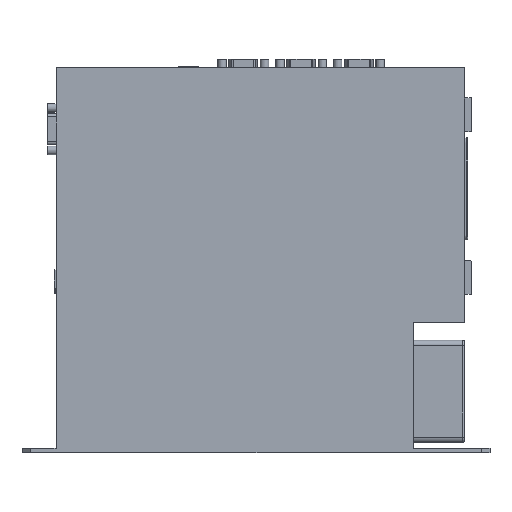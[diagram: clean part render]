
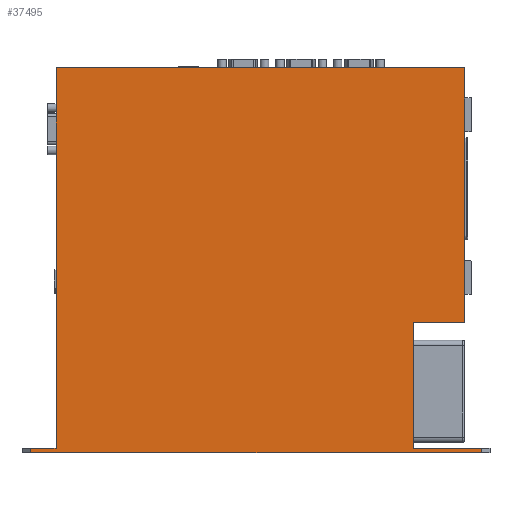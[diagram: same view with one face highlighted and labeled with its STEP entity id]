
A CAD part, left-side view. The second image highlights one B-rep face of the part: STEP entity #37495.
In plain terms, the highlighted planar face has unit normal (-1, 0, 0).
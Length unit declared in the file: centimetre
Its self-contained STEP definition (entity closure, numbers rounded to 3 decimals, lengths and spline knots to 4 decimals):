
#3326=VERTEX_POINT('',#45869);
#3327=VERTEX_POINT('',#45871);
#3800=VERTEX_POINT('',#47402);
#6267=VERTEX_POINT('',#61863);
#6778=VERTEX_POINT('',#63535);
#6779=VERTEX_POINT('',#63537);
#6780=VERTEX_POINT('',#63544);
#6781=VERTEX_POINT('',#63546);
#6782=VERTEX_POINT('',#63548);
#6783=VERTEX_POINT('',#63550);
#7057=VECTOR('',#39834,1.);
#7338=VECTOR('',#40192,1.);
#9754=VECTOR('',#43516,1.);
#10185=VECTOR('',#45123,1.);
#10188=VECTOR('',#45127,1.);
#10189=VECTOR('',#45129,1.);
#10190=VECTOR('',#45130,1.);
#10191=VECTOR('',#45131,1.);
#10192=VECTOR('',#45132,1.);
#10193=VECTOR('',#45133,1.);
#10480=LINE('',#45870,#7057);
#10761=LINE('',#47405,#7338);
#13177=LINE('',#61866,#9754);
#13608=LINE('',#63536,#10185);
#13611=LINE('',#63541,#10188);
#13612=LINE('',#63543,#10189);
#13613=LINE('',#63545,#10190);
#13614=LINE('',#63547,#10191);
#13615=LINE('',#63549,#10192);
#13616=LINE('',#63551,#10193);
#13961=EDGE_CURVE('',#3327,#3326,#10480,.T.);
#14474=EDGE_CURVE('',#3800,#3327,#10761,.T.);
#18335=EDGE_CURVE('',#6267,#3800,#13177,.T.);
#19059=EDGE_CURVE('',#6779,#6778,#13608,.T.);
#19062=EDGE_CURVE('',#6778,#6267,#13611,.T.);
#19063=EDGE_CURVE('',#6780,#6779,#13612,.T.);
#19064=EDGE_CURVE('',#3326,#6781,#13613,.T.);
#19065=EDGE_CURVE('',#6782,#6781,#13614,.T.);
#19066=EDGE_CURVE('',#6783,#6782,#13615,.T.);
#19067=EDGE_CURVE('',#6783,#6780,#13616,.T.);
#29935=ORIENTED_EDGE('',*,*,#19063,.T.);
#29936=ORIENTED_EDGE('',*,*,#19059,.T.);
#29937=ORIENTED_EDGE('',*,*,#19062,.T.);
#29938=ORIENTED_EDGE('',*,*,#18335,.T.);
#29939=ORIENTED_EDGE('',*,*,#14474,.T.);
#29940=ORIENTED_EDGE('',*,*,#13961,.T.);
#29941=ORIENTED_EDGE('',*,*,#19064,.T.);
#29942=ORIENTED_EDGE('',*,*,#19065,.F.);
#29943=ORIENTED_EDGE('',*,*,#19066,.F.);
#29944=ORIENTED_EDGE('',*,*,#19067,.T.);
#32685=EDGE_LOOP('',(#29935,#29936,#29937,#29938,#29939,#29940,#29941,#29942,
#29943,#29944));
#35306=FACE_BOUND('',#32685,.T.);
#37495=ADVANCED_FACE('',(#35306),#64773,.T.);
#39294=AXIS2_PLACEMENT_3D('',#63542,#45128,$);
#39834=DIRECTION('',(0.,0.,-1.));
#40192=DIRECTION('',(0.,1.,0.));
#43516=DIRECTION('',(0.,0.,1.));
#45123=DIRECTION('',(0.,0.,1.));
#45127=DIRECTION('',(0.,-1.,0.));
#45128=DIRECTION('',(-1.,0.,0.));
#45129=DIRECTION('',(0.,1.,0.));
#45130=DIRECTION('',(0.,1.,0.));
#45131=DIRECTION('',(0.,0.,1.));
#45132=DIRECTION('',(0.,1.,0.));
#45133=DIRECTION('',(0.,0.,1.));
#45869=CARTESIAN_POINT('',(0.,25.5,0.25));
#45870=CARTESIAN_POINT('',(0.,25.5,11.3));
#45871=CARTESIAN_POINT('',(0.,25.5,22.6));
#47402=CARTESIAN_POINT('',(0.,1.5,22.6));
#47405=CARTESIAN_POINT('',(0.,0.5,22.6));
#61863=CARTESIAN_POINT('',(0.,1.5,7.65));
#61866=CARTESIAN_POINT('',(0.,1.5,11.3));
#63535=CARTESIAN_POINT('',(0.,4.5,7.65));
#63536=CARTESIAN_POINT('',(0.,4.5,1.975));
#63537=CARTESIAN_POINT('',(0.,4.5,0.25));
#63541=CARTESIAN_POINT('',(0.,7.625,7.65));
#63542=CARTESIAN_POINT('',(0.,13.75,0.));
#63543=CARTESIAN_POINT('',(0.,7.625,0.25));
#63544=CARTESIAN_POINT('',(0.,0.5,0.25));
#63545=CARTESIAN_POINT('',(0.,20.2375,0.25));
#63546=CARTESIAN_POINT('',(0.,27.,0.25));
#63547=CARTESIAN_POINT('',(0.,27.,0.));
#63548=CARTESIAN_POINT('',(0.,27.,0.));
#63549=CARTESIAN_POINT('',(0.,0.5,0.));
#63550=CARTESIAN_POINT('',(0.,0.5,0.));
#63551=CARTESIAN_POINT('',(0.,0.5,0.));
#64773=PLANE('',#39294);
